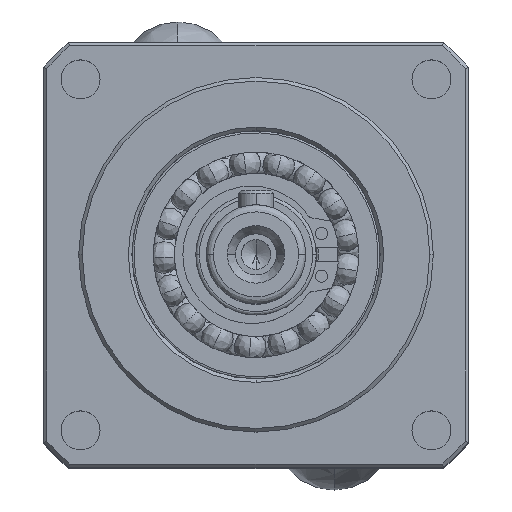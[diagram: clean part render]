
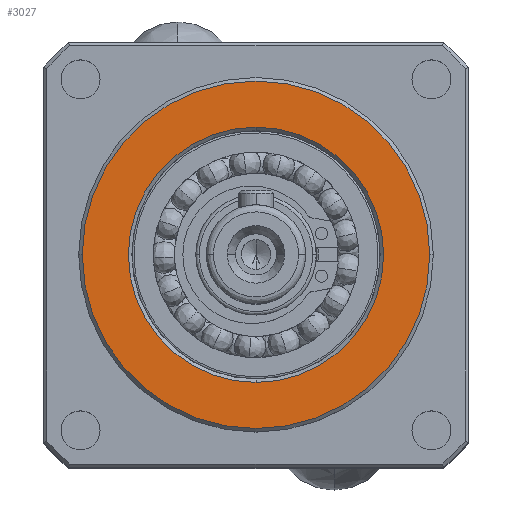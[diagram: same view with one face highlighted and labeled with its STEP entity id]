
A CAD part, top view. The second image highlights one B-rep face of the part: STEP entity #3027.
In plain terms, the highlighted planar face has unit normal (0, 0, 1) as drawn and (0, 0, -1) by its records, which use the part's own axes.
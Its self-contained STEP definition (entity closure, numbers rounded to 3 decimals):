
#276 = DIRECTION ( 'NONE',  ( 0., 0., 1. ) ) ;
#2677 = EDGE_LOOP ( 'NONE', ( #39803, #39354 ) ) ;
#3027 = ADVANCED_FACE ( 'NONE', ( #6533, #39651 ), #6370, .T. ) ;
#3742 = CARTESIAN_POINT ( 'NONE',  ( 0., 18., -3. ) ) ;
#3914 = AXIS2_PLACEMENT_3D ( 'NONE', #15440, #37164, #18517 ) ;
#4441 = CIRCLE ( 'NONE', #25212, 18. ) ;
#5776 = VERTEX_POINT ( 'NONE', #15264 ) ;
#5827 = DIRECTION ( 'NONE',  ( 0., 0., -1. ) ) ;
#6370 = PLANE ( 'NONE',  #13306 ) ;
#6533 = FACE_BOUND ( 'NONE', #2677, .T. ) ;
#6804 = VERTEX_POINT ( 'NONE', #19514 ) ;
#6897 = CARTESIAN_POINT ( 'NONE',  ( 24.794, -24.794, -3. ) ) ;
#7032 = DIRECTION ( 'NONE',  ( -1., 0., 0. ) ) ;
#8401 = DIRECTION ( 'NONE',  ( 0., 0., -1. ) ) ;
#8813 = VERTEX_POINT ( 'NONE', #3742 ) ;
#11603 = CARTESIAN_POINT ( 'NONE',  ( 0., 0., -3. ) ) ;
#13306 = AXIS2_PLACEMENT_3D ( 'NONE', #6897, #5827, #7032 ) ;
#14752 = DIRECTION ( 'NONE',  ( 0., 1., 0. ) ) ;
#15264 = CARTESIAN_POINT ( 'NONE',  ( 0., -18., -3. ) ) ;
#15440 = CARTESIAN_POINT ( 'NONE',  ( 0., 0., -3. ) ) ;
#17642 = CIRCLE ( 'NONE', #3914, 24.5 ) ;
#18517 = DIRECTION ( 'NONE',  ( 1., 0., 0. ) ) ;
#18909 = CARTESIAN_POINT ( 'NONE',  ( 0., 0., -3. ) ) ;
#19514 = CARTESIAN_POINT ( 'NONE',  ( -24.5, 0., -3. ) ) ;
#20041 = ORIENTED_EDGE ( 'NONE', *, *, #36048, .T. ) ;
#20911 = EDGE_CURVE ( 'NONE', #8813, #5776, #25757, .T. ) ;
#21085 = EDGE_CURVE ( 'NONE', #5776, #8813, #4441, .T. ) ;
#21387 = EDGE_CURVE ( 'NONE', #6804, #27299, #22402, .T. ) ;
#22023 = DIRECTION ( 'NONE',  ( 0., 1., 0. ) ) ;
#22402 = CIRCLE ( 'NONE', #24760, 24.5 ) ;
#24760 = AXIS2_PLACEMENT_3D ( 'NONE', #26894, #8401, #29976 ) ;
#25212 = AXIS2_PLACEMENT_3D ( 'NONE', #18909, #276, #22023 ) ;
#25502 = AXIS2_PLACEMENT_3D ( 'NONE', #11603, #33163, #14752 ) ;
#25757 = CIRCLE ( 'NONE', #25502, 18. ) ;
#26894 = CARTESIAN_POINT ( 'NONE',  ( 0., 0., -3. ) ) ;
#27299 = VERTEX_POINT ( 'NONE', #40268 ) ;
#28307 = EDGE_LOOP ( 'NONE', ( #20041, #30947 ) ) ;
#29976 = DIRECTION ( 'NONE',  ( 1., 0., 0. ) ) ;
#30947 = ORIENTED_EDGE ( 'NONE', *, *, #21387, .T. ) ;
#33163 = DIRECTION ( 'NONE',  ( 0., 0., 1. ) ) ;
#36048 = EDGE_CURVE ( 'NONE', #27299, #6804, #17642, .T. ) ;
#37164 = DIRECTION ( 'NONE',  ( 0., 0., -1. ) ) ;
#39354 = ORIENTED_EDGE ( 'NONE', *, *, #21085, .T. ) ;
#39651 = FACE_OUTER_BOUND ( 'NONE', #28307, .T. ) ;
#39803 = ORIENTED_EDGE ( 'NONE', *, *, #20911, .T. ) ;
#40268 = CARTESIAN_POINT ( 'NONE',  ( 24.5, 0., -3. ) ) ;
